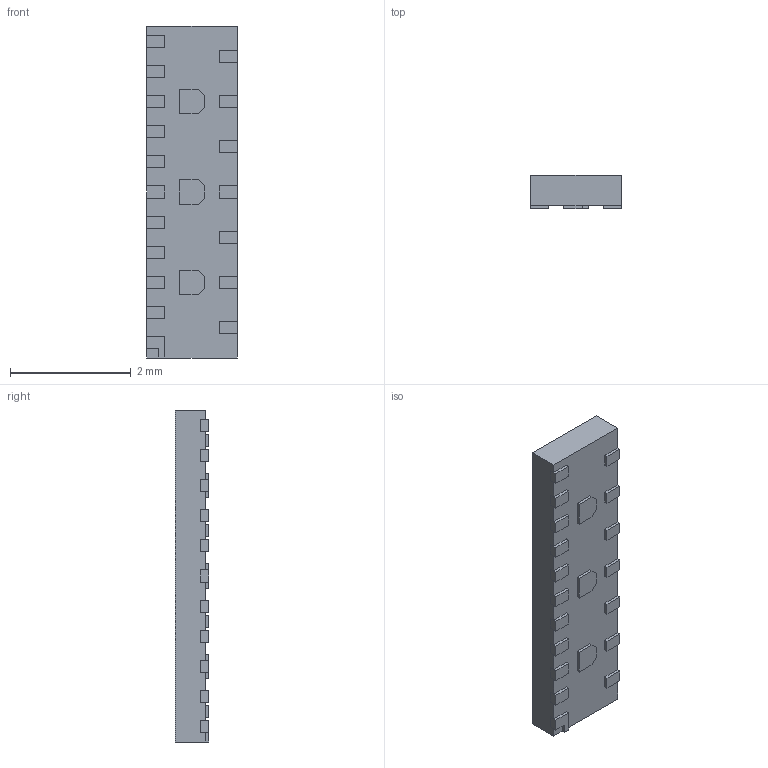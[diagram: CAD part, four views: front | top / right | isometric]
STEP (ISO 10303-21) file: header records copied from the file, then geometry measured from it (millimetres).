
FILE_DESCRIPTION (( 'STEP AP214' ), '1' );
FILE_NAME ('517CP.STEP', '2024-05-08T15:42:05', ( 'LENOVO' ), ( '' ), 'SwSTEP 2.0', 'SolidWorks 2021', '' );
FILE_SCHEMA (( 'AUTOMOTIVE_DESIGN' ));
Length unit declared in the file: millimetre
Products named in the file (2): 517CP; 517CP_517CP
Assembly tree (1 placements, depth 2):
  517CP
    517CP_517CP
Bounding box: 1.5 x 0.55 x 5.5 mm (x, y, z)
Volume: 4.2 mm3; surface area: 30.3 mm2
Topology: 23 solids, 23 shells, 221 faces, 522 edges, 348 vertices
Faces by surface type: plane 217, cylinder 4
Entity records: 6488 total; most frequent: CARTESIAN_POINT 1095, ORIENTED_EDGE 1044, DIRECTION 980, EDGE_CURVE 522, LINE 514, VECTOR 514, VERTEX_POINT 348, AXIS2_PLACEMENT_3D 233
